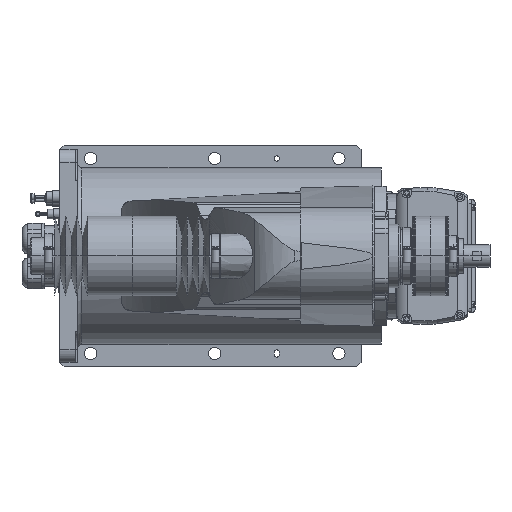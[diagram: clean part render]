
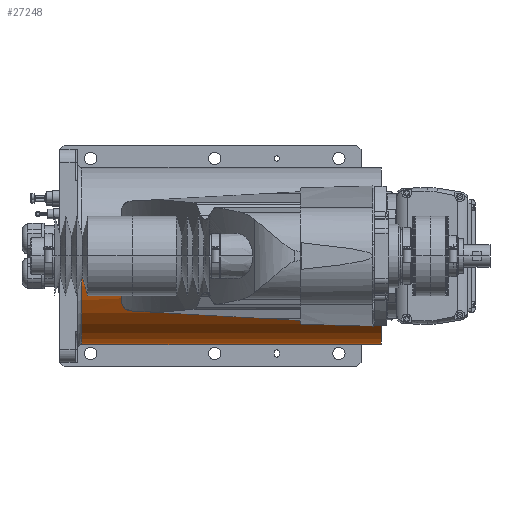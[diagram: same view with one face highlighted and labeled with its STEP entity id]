
A CAD part, left-side view. The second image highlights one B-rep face of the part: STEP entity #27248.
In plain terms, the highlighted cylindrical face has radius 100 mm (diameter 200 mm), a partial arc.
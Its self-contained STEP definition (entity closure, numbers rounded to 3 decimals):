
#11066 = EDGE_CURVE( '', #30158, #29520, #32331, .T. );
#11898 = VERTEX_POINT( '', #33268 );
#12032 = VERTEX_POINT( '', #33422 );
#13390 = EDGE_CURVE( '', #13910, #17482, #34939, .T. );
#13816 = EDGE_CURVE( '', #30158, #24484, #35415, .T. );
#13910 = VERTEX_POINT( '', #35519 );
#13950 = EDGE_CURVE( '', #26858, #21212, #35563, .T. );
#15176 = EDGE_CURVE( '', #18920, #29520, #36922, .T. );
#15902 = VERTEX_POINT( '', #37737 );
#16316 = EDGE_CURVE( '', #21212, #15902, #38187, .T. );
#17482 = VERTEX_POINT( '', #39485 );
#17550 = VERTEX_POINT( '', #39558 );
#18352 = EDGE_CURVE( '', #27548, #17550, #40450, .T. );
#18354 = EDGE_CURVE( '', #18920, #12032, #40452, .T. );
#18920 = VERTEX_POINT( '', #41085 );
#20492 = EDGE_CURVE( '', #24484, #27548, #42869, .T. );
#21212 = VERTEX_POINT( '', #43677 );
#21782 = EDGE_CURVE( '', #23694, #17550, #44312, .T. );
#21854 = EDGE_CURVE( '', #28312, #23694, #44391, .T. );
#23694 = VERTEX_POINT( '', #46461 );
#24484 = VERTEX_POINT( '', #47340 );
#24580 = EDGE_CURVE( '', #29600, #11898, #47444, .T. );
#25412 = EDGE_CURVE( '', #11898, #26858, #48385, .T. );
#25920 = EDGE_CURVE( '', #17482, #12032, #48956, .T. );
#26858 = VERTEX_POINT( '', #49983 );
#27248 = ADVANCED_FACE( '', ( #50409 ), #50410, .T. );
#27548 = VERTEX_POINT( '', #50745 );
#28312 = VERTEX_POINT( '', #51611 );
#28484 = EDGE_CURVE( '', #15902, #13910, #51799, .T. );
#29520 = VERTEX_POINT( '', #52953 );
#29600 = VERTEX_POINT( '', #53042 );
#30158 = VERTEX_POINT( '', #53671 );
#31792 = EDGE_CURVE( '', #29600, #28312, #55488, .T. );
#32331 = LINE( '', #56208, #56209 );
#33268 = CARTESIAN_POINT( '', ( 66.144, 68., -75. ) );
#33422 = CARTESIAN_POINT( '', ( 100., 64., 0. ) );
#34939 = LINE( '', #59998, #59999 );
#35415 = CIRCLE( '', #60675, 100. );
#35519 = CARTESIAN_POINT( '', ( 89.303, 62., -45. ) );
#35563 = CIRCLE( '', #60869, 100. );
#36922 = CIRCLE( '', #62773, 100. );
#37737 = CARTESIAN_POINT( '', ( 75.993, 62., -65. ) );
#38187 = LINE( '', #64583, #64584 );
#39485 = CARTESIAN_POINT( '', ( 89.303, 64., -45. ) );
#39558 = CARTESIAN_POINT( '', ( -100., 311.3, 0. ) );
#40450 = CIRCLE( '', #67870, 100. );
#40452 = LINE( '', #67873, #67874 );
#41085 = CARTESIAN_POINT( '', ( 100., 25., 0. ) );
#42869 = LINE( '', #71281, #71282 );
#43677 = CARTESIAN_POINT( '', ( 75.993, 64., -65. ) );
#44312 = LINE( '', #73424, #73425 );
#44391 = CIRCLE( '', #73542, 100. );
#46461 = CARTESIAN_POINT( '', ( -100., 363., 0. ) );
#47340 = CARTESIAN_POINT( '', ( -88., 218.3, -47.497 ) );
#47444 = LINE( '', #77968, #77969 );
#48385 = B_SPLINE_CURVE_WITH_KNOTS( '', 3, ( #79367, #79368, #79369, #79370, #79371, #79372, #79373, #79374, #79375, #79376, #79377, #79378, #79379, #79380, #79381, #79382, #79383, #79384 ), .UNSPECIFIED., .F., .F., ( 4, 2, 2, 2, 2, 2, 2, 2, 4 ), ( 0., 0.75, 1.5, 2.25, 3., 4.12, 5.24, 6.36, 7.48 ), .UNSPECIFIED. );
#48956 = CIRCLE( '', #80200, 100. );
#49983 = CARTESIAN_POINT( '', ( 70.42, 64., -71. ) );
#50409 = FACE_OUTER_BOUND( '', #82359, .T. );
#50410 = CYLINDRICAL_SURFACE( '', #82360, 100. );
#50745 = CARTESIAN_POINT( '', ( -88., 311.3, -47.497 ) );
#51611 = CARTESIAN_POINT( '', ( 0., 363., -100. ) );
#51799 = CIRCLE( '', #84339, 100. );
#52953 = CARTESIAN_POINT( '', ( -100., 25., 0. ) );
#53042 = CARTESIAN_POINT( '', ( 66.144, 363., -75. ) );
#53671 = CARTESIAN_POINT( '', ( -100., 218.3, 0. ) );
#55488 = CIRCLE( '', #89789, 100. );
#56208 = CARTESIAN_POINT( '', ( -100., 194., 0. ) );
#56209 = VECTOR( '', #90364, 1. );
#59998 = CARTESIAN_POINT( '', ( 89.303, 63., -45. ) );
#59999 = VECTOR( '', #93443, 1. );
#60675 = AXIS2_PLACEMENT_3D( '', #94000, #94001, #94002 );
#60869 = AXIS2_PLACEMENT_3D( '', #94142, #94143, #94144 );
#62773 = AXIS2_PLACEMENT_3D( '', #95693, #95694, #95695 );
#64583 = CARTESIAN_POINT( '', ( 75.993, 63., -65. ) );
#64584 = VECTOR( '', #97080, 1. );
#67870 = AXIS2_PLACEMENT_3D( '', #99628, #99629, #99630 );
#67873 = CARTESIAN_POINT( '', ( 100., 194., 0. ) );
#67874 = VECTOR( '', #99631, 1. );
#71281 = CARTESIAN_POINT( '', ( -88., 264.8, -47.497 ) );
#71282 = VECTOR( '', #102458, 1. );
#73424 = CARTESIAN_POINT( '', ( -100., 194., 0. ) );
#73425 = VECTOR( '', #104165, 1. );
#73542 = AXIS2_PLACEMENT_3D( '', #104254, #104255, #104256 );
#77968 = CARTESIAN_POINT( '', ( 66.144, 215.5, -75. ) );
#77969 = VECTOR( '', #107865, 1. );
#79367 = CARTESIAN_POINT( '', ( 66.144, 68., -75. ) );
#79368 = CARTESIAN_POINT( '', ( 66.144, 67.75, -75. ) );
#79369 = CARTESIAN_POINT( '', ( 66.171, 67.497, -74.976 ) );
#79370 = CARTESIAN_POINT( '', ( 66.277, 67.005, -74.882 ) );
#79371 = CARTESIAN_POINT( '', ( 66.356, 66.766, -74.812 ) );
#79372 = CARTESIAN_POINT( '', ( 66.555, 66.315, -74.636 ) );
#79373 = CARTESIAN_POINT( '', ( 66.674, 66.103, -74.529 ) );
#79374 = CARTESIAN_POINT( '', ( 66.938, 65.716, -74.292 ) );
#79375 = CARTESIAN_POINT( '', ( 67.082, 65.542, -74.162 ) );
#79376 = CARTESIAN_POINT( '', ( 67.446, 65.158, -73.831 ) );
#79377 = CARTESIAN_POINT( '', ( 67.688, 64.954, -73.61 ) );
#79378 = CARTESIAN_POINT( '', ( 68.203, 64.604, -73.134 ) );
#79379 = CARTESIAN_POINT( '', ( 68.475, 64.457, -72.879 ) );
#79380 = CARTESIAN_POINT( '', ( 69.031, 64.224, -72.352 ) );
#79381 = CARTESIAN_POINT( '', ( 69.316, 64.139, -72.08 ) );
#79382 = CARTESIAN_POINT( '', ( 69.877, 64.026, -71.535 ) );
#79383 = CARTESIAN_POINT( '', ( 70.155, 64., -71.263 ) );
#79384 = CARTESIAN_POINT( '', ( 70.42, 64., -71. ) );
#80200 = AXIS2_PLACEMENT_3D( '', #109750, #109751, #109752 );
#82359 = EDGE_LOOP( '', ( #111309, #111310, #111311, #111312, #111313, #111314, #111315, #111316, #111317, #111318, #111319, #111320, #111321, #111322, #111323, #111324 ) );
#82360 = AXIS2_PLACEMENT_3D( '', #111325, #111326, #111327 );
#84339 = AXIS2_PLACEMENT_3D( '', #112896, #112897, #112898 );
#89789 = AXIS2_PLACEMENT_3D( '', #117260, #117261, #117262 );
#90364 = DIRECTION( '', ( 0., -1., 0. ) );
#93443 = DIRECTION( '', ( 0., 1., 0. ) );
#94000 = CARTESIAN_POINT( '', ( 0., 218.3, 0. ) );
#94001 = DIRECTION( '', ( 0., -1., 0. ) );
#94002 = DIRECTION( '', ( 1., 0., 0. ) );
#94142 = CARTESIAN_POINT( '', ( 0., 64., 0. ) );
#94143 = DIRECTION( '', ( 0., -1., 0. ) );
#94144 = DIRECTION( '', ( 1., 0., 0. ) );
#95693 = CARTESIAN_POINT( '', ( 0., 25., 0. ) );
#95694 = DIRECTION( '', ( 0., 1., 0. ) );
#95695 = DIRECTION( '', ( 1., 0., 0. ) );
#97080 = DIRECTION( '', ( 0., -1., 0. ) );
#99628 = CARTESIAN_POINT( '', ( 0., 311.3, 0. ) );
#99629 = DIRECTION( '', ( 0., 1., 0. ) );
#99630 = DIRECTION( '', ( 1., 0., 0. ) );
#99631 = DIRECTION( '', ( 0., 1., 0. ) );
#102458 = DIRECTION( '', ( 0., 1., 0. ) );
#104165 = DIRECTION( '', ( 0., -1., 0. ) );
#104254 = CARTESIAN_POINT( '', ( 0., 363., 0. ) );
#104255 = DIRECTION( '', ( 0., 1., 0. ) );
#104256 = DIRECTION( '', ( 1., 0., 0. ) );
#107865 = DIRECTION( '', ( 0., -1., 0. ) );
#109750 = CARTESIAN_POINT( '', ( 0., 64., 0. ) );
#109751 = DIRECTION( '', ( 0., -1., 0. ) );
#109752 = DIRECTION( '', ( 1., 0., 0. ) );
#111309 = ORIENTED_EDGE( '', *, *, #18354, .F. );
#111310 = ORIENTED_EDGE( '', *, *, #15176, .T. );
#111311 = ORIENTED_EDGE( '', *, *, #11066, .F. );
#111312 = ORIENTED_EDGE( '', *, *, #13816, .T. );
#111313 = ORIENTED_EDGE( '', *, *, #20492, .T. );
#111314 = ORIENTED_EDGE( '', *, *, #18352, .T. );
#111315 = ORIENTED_EDGE( '', *, *, #21782, .F. );
#111316 = ORIENTED_EDGE( '', *, *, #21854, .F. );
#111317 = ORIENTED_EDGE( '', *, *, #31792, .F. );
#111318 = ORIENTED_EDGE( '', *, *, #24580, .T. );
#111319 = ORIENTED_EDGE( '', *, *, #25412, .T. );
#111320 = ORIENTED_EDGE( '', *, *, #13950, .T. );
#111321 = ORIENTED_EDGE( '', *, *, #16316, .T. );
#111322 = ORIENTED_EDGE( '', *, *, #28484, .T. );
#111323 = ORIENTED_EDGE( '', *, *, #13390, .T. );
#111324 = ORIENTED_EDGE( '', *, *, #25920, .T. );
#111325 = CARTESIAN_POINT( '', ( 0., 194., 0. ) );
#111326 = DIRECTION( '', ( 0., -1., 0. ) );
#111327 = DIRECTION( '', ( 1., 0., 0. ) );
#112896 = CARTESIAN_POINT( '', ( 0., 62., 0. ) );
#112897 = DIRECTION( '', ( 0., -1., 0. ) );
#112898 = DIRECTION( '', ( 1., 0., 0. ) );
#117260 = CARTESIAN_POINT( '', ( 0., 363., 0. ) );
#117261 = DIRECTION( '', ( 0., 1., 0. ) );
#117262 = DIRECTION( '', ( 1., 0., 0. ) );
